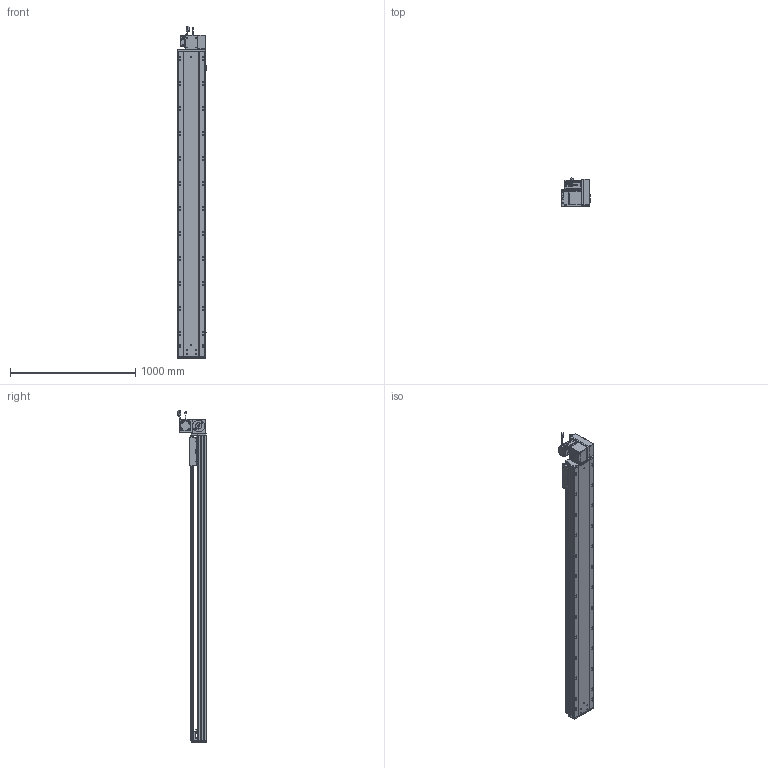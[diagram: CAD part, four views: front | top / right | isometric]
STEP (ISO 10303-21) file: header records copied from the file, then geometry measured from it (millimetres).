
FILE_DESCRIPTION (( 'STEP AP203' ), '1' );
FILE_NAME ('RY220-T-300-UR.SLDASM_2100.step', '2022-07-25T08:44:51', ( '' ), ( '' ), 'SwSTEP 2.0', 'SolidWorks 2016', '' );
FILE_SCHEMA (( 'CONFIG_CONTROL_DESIGN' ));
Length unit declared in the file: millimetre
Products named in the file (14): 110A-T-肮祭謫釱傷裔; RY220-T-300-奻裔啣_2100; 怢湛750W_ECMA-CX0807ES; RY220-T-300-UR.SLDASM_2100; RY220翋肮祭謫釱; 覜茼ん672; RY220-俋离672覜茼んえ; RY220-T菁釱-300_2100; RY220-同步轮副支撑座6304×2; RY220圉猾敕々湍臏賑輸; RY220-T-湍謫欶(鍼踢); 滅袉蝶18-15; RY220翋肮祭謫裔啣; RY220-T-蛌殏萇儂假蚾啣(750W)
Assembly tree (18 placements, depth 2):
  RY220-T-300-UR.SLDASM_2100
    RY220-T菁釱-300_2100
    RY220翋肮祭謫釱
    覜茼ん672  x3
    RY220圉猾敕々湍臏賑輸
    RY220-T-300-奻裔啣_2100
    RY220-俋离672覜茼んえ
    滅袉蝶18-15  x3
    RY220翋肮祭謫裔啣  x2
    110A-T-肮祭謫釱傷裔
    怢湛750W_ECMA-CX0807ES
    RY220-T-湍謫欶(鍼踢)
    RY220-T-蛌殏萇儂假蚾啣(750W)
    RY220-同步轮副支撑座6304×2
Bounding box: 238.7 x 231.74 x 2653.27 mm (x, y, z)
Volume: 19377376.7 mm3; surface area: 5900984.6 mm2
Topology: 19 solids, 19 shells, 2852 faces, 7883 edges, 4962 vertices
Faces by surface type: cylinder 1380, plane 1069, cone 321, bspline 56, sphere 16, torus 10
Entity records: 95059 total; most frequent: CARTESIAN_POINT 26941, ORIENTED_EDGE 14106, DIRECTION 13508, EDGE_CURVE 7053, AXIS2_PLACEMENT_3D 4838, VERTEX_POINT 4586, LINE 3832, VECTOR 3832
